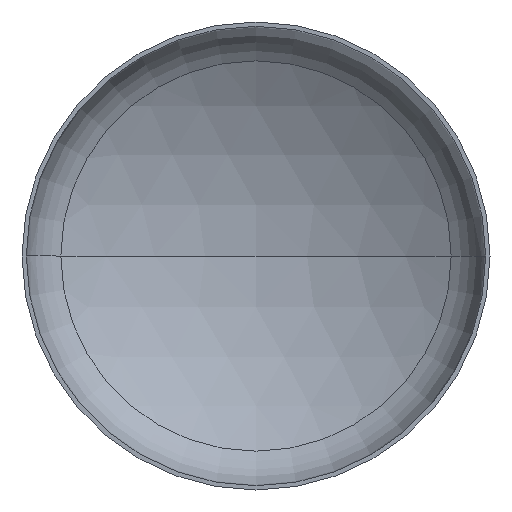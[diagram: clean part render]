
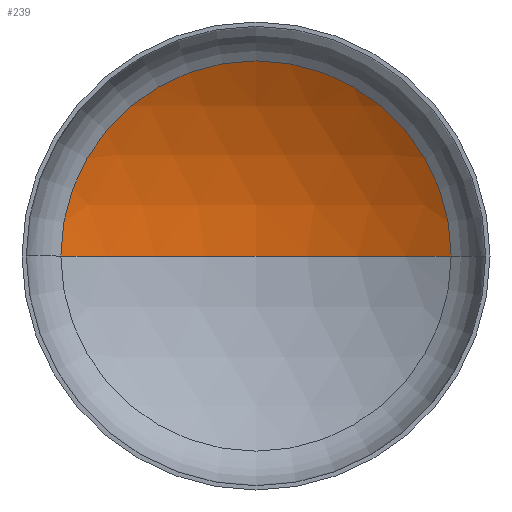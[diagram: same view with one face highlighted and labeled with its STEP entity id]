
A CAD part, front view. The second image highlights one B-rep face of the part: STEP entity #239.
In plain terms, the highlighted spherical face has radius 960 mm.
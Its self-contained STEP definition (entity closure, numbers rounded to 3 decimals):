
#5 = DIRECTION ( 'NONE',  ( 1., 0., 0. ) ) ;
#17 = EDGE_LOOP ( 'NONE', ( #118, #82, #24 ) ) ;
#20 = VERTEX_POINT ( 'NONE', #251 ) ;
#24 = ORIENTED_EDGE ( 'NONE', *, *, #130, .T. ) ;
#30 = DIRECTION ( 'NONE',  ( 0., 0., 1. ) ) ;
#47 = AXIS2_PLACEMENT_3D ( 'NONE', #96, #64, #188 ) ;
#64 = DIRECTION ( 'NONE',  ( 0., 0., -1. ) ) ;
#68 = AXIS2_PLACEMENT_3D ( 'NONE', #261, #30, #5 ) ;
#72 = AXIS2_PLACEMENT_3D ( 'NONE', #212, #195, #196 ) ;
#76 = AXIS2_PLACEMENT_3D ( 'NONE', #226, #224, #225 ) ;
#82 = ORIENTED_EDGE ( 'NONE', *, *, #131, .T. ) ;
#94 = VERTEX_POINT ( 'NONE', #250 ) ;
#96 = CARTESIAN_POINT ( 'NONE',  ( 0., -621.369, 0. ) ) ;
#114 = VERTEX_POINT ( 'NONE', #314 ) ;
#118 = ORIENTED_EDGE ( 'NONE', *, *, #134, .F. ) ;
#130 = EDGE_CURVE ( 'NONE', #94, #20, #390, .T. ) ;
#131 = EDGE_CURVE ( 'NONE', #114, #94, #271, .T. ) ;
#134 = EDGE_CURVE ( 'NONE', #114, #20, #143, .T. ) ;
#143 = CIRCLE ( 'NONE', #68, 960. ) ;
#188 = DIRECTION ( 'NONE',  ( -1., 0., 0. ) ) ;
#193 = SPHERICAL_SURFACE ( 'NONE', #47, 960. ) ;
#195 = DIRECTION ( 'NONE',  ( 0., 0., -1. ) ) ;
#196 = DIRECTION ( 'NONE',  ( -1., 0., 0. ) ) ;
#212 = CARTESIAN_POINT ( 'NONE',  ( 0., -621.369, 0. ) ) ;
#224 = DIRECTION ( 'NONE',  ( 0., -1., 0. ) ) ;
#225 = DIRECTION ( 'NONE',  ( 1., 0., 0. ) ) ;
#226 = CARTESIAN_POINT ( 'NONE',  ( 0., 197.875, 0. ) ) ;
#239 = ADVANCED_FACE ( 'NONE', ( #252 ), #193, .F. ) ;
#250 = CARTESIAN_POINT ( 'NONE',  ( 500.439, 197.875, 0. ) ) ;
#251 = CARTESIAN_POINT ( 'NONE',  ( -500.439, 197.875, 0. ) ) ;
#252 = FACE_OUTER_BOUND ( 'NONE', #17, .T. ) ;
#261 = CARTESIAN_POINT ( 'NONE',  ( 0., -621.369, 0. ) ) ;
#271 = CIRCLE ( 'NONE', #72, 960. ) ;
#314 = CARTESIAN_POINT ( 'NONE',  ( 0., 338.631, 0. ) ) ;
#390 = CIRCLE ( 'NONE', #76, 500.439 ) ;
